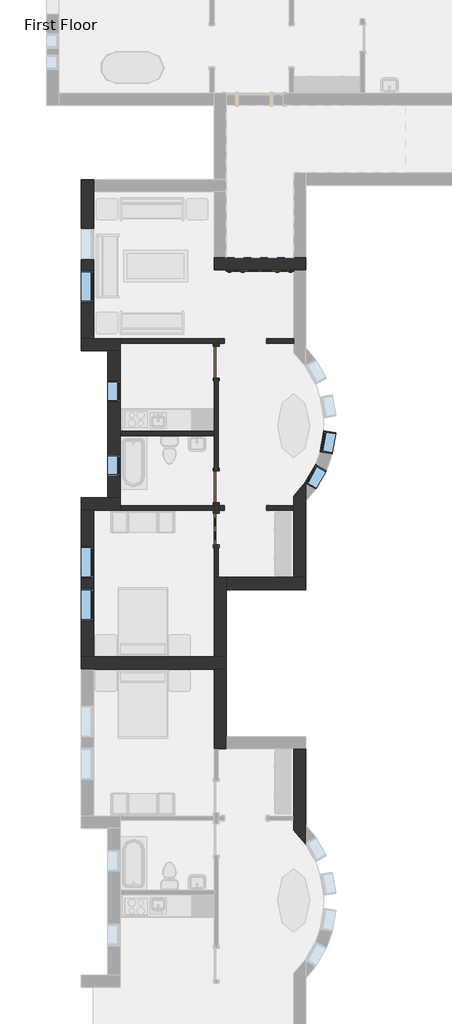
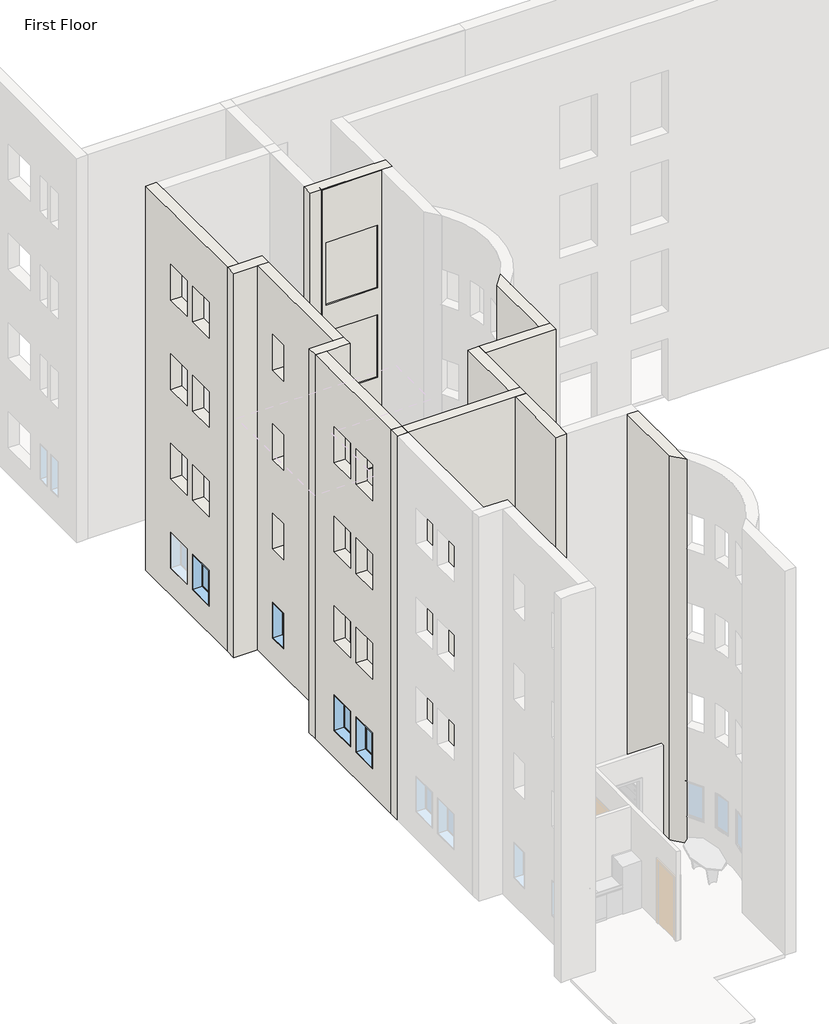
# One storey, part 8 of 21: 20 walls, 7 windows, 4 doors.
"""IFC4 building model written with IfcOpenShell, lengths in millimetres."""

from ifc_helpers import new_model, si_unit, frame, origin, origin_with_axes, place, context, project, spatial, polyline, circle_curve, outline, extrude, faceted_brep, transform, mapped, element, save
from ifc_brep_helpers import plane_surface, revolved_surface, advanced_brep
from components import door_2e3b4da2, door_a1797ceb, door_a3eb833a, door_dba5aa2e, window_60baf983, window_15c49d37

model = new_model("IFC4")

# Units and contexts
model_context = context("Model", 3, world=origin())
ifc_project = project(units=[si_unit("LENGTHUNIT", "METRE", prefix="MILLI")], contexts=[model_context])

# Site, building, storey
site = spatial("IfcSite", under=ifc_project)
building = spatial("IfcBuilding", under=site)
storey = spatial("IfcBuildingStorey", under=building, Name="First Floor", Elevation=0.0)

# Doors
placement = place(None, origin())
door_shape = door_2e3b4da2(model_context)
element("IfcDoor", 1, ObjectType="Single-Decorative 2 : 36\" x 84\"", at=placement, inside=storey, context=model_context, shape_type="MappedRepresentation", body=[
    mapped(door_shape, transform((-26223.8839563, -7995.7558133, 0.0), x_axis=(0.0, 1.0, 0.0), y_axis=(-1.0, 0.0, 0.0), z_axis=(0.0, 0.0, 1.0))),
])
door_2_shape = door_a1797ceb(model_context)
element("IfcDoor", 2, ObjectType="Single-Flush : 36\" x 84\"", at=placement, inside=storey, context=model_context, shape_type="MappedRepresentation", body=[
    mapped(door_2_shape, transform((-26223.8839563, -3198.3308133, 0.0), x_axis=(0.0, 1.0, 0.0), y_axis=(-1.0, 0.0, 0.0), z_axis=(0.0, 0.0, 1.0))),
])
door_3_shape = door_a3eb833a(model_context)
element("IfcDoor", 3, ObjectType="Single-Flush : 36\" x 84\"", at=placement, inside=storey, context=model_context, shape_type="MappedRepresentation", body=[
    mapped(door_3_shape, transform((-26223.8839563, -6776.5558133, 0.0), x_axis=(0.0, -1.0, 0.0), y_axis=(1.0, 0.0, 0.0), z_axis=(0.0, 0.0, 1.0))),
])
door_4_shape = door_dba5aa2e(model_context)
element("IfcDoor", 4, ObjectType="Single-Raised Panel with Sidelights : 36\" x 84\"", at=placement, inside=storey, context=model_context, shape_type="MappedRepresentation", body=[
    mapped(door_4_shape, transform((-24968.1714563, -415.4433133, 0.0), x_axis=(1.0, 0.0, 0.0), y_axis=(0.0, 1.0, 0.0), z_axis=(0.0, 0.0, 1.0))),
])

# Walls
element("IfcWall", 5, ObjectType="Exterior - Brick on Mtl. Stud", at=placement, inside=storey, context=model_context, shape_type="Brep", body=[
    faceted_brep([(-26287.3839563, -550.3808133, 0.0), (-24001.3839563, -550.3808133, 0.0), (-23648.9589563, -550.3808133, 0.0), (-23648.9589563, -550.3808133, 13106.4), (-24001.3839563, -550.3808133, 13106.4), (-26287.3839563, -550.3808133, 13106.4), (-26287.3839563, -197.9558133, 0.0), (-26287.3839563, -197.9558133, 13106.4), (-25934.9589563, -197.9558133, 13106.4), (-24001.3839563, -197.9558133, 13106.4), (-23648.9589563, -197.9558133, 13106.4), (-23648.9589563, -197.9558133, 0.0), (-24001.3839563, -197.9558133, 0.0), (-25934.9589563, -197.9558133, 0.0)], [[[0, 1, 2, 3, 4, 5]], [[6, 7, 8, 9, 10, 11, 12, 13]], [[2, 1, 0, 6, 13, 12, 11]], [[5, 4, 3, 10, 9, 8, 7]], [[3, 2, 11, 10]], [[0, 5, 7, 6]]]),
])
element("IfcWall", 6, ObjectType="Exterior - Brick on Mtl. Stud", at=placement, inside=storey, context=model_context, shape_type="Brep", body=[
    faceted_brep([(-24129.9714563, -591.6558133, 2133.6), (-24129.9714563, -591.6558133, 0.0), (-24001.3839563, -591.6558133, 0.0), (-24001.3839563, -591.6558133, 13106.4), (-25934.9589563, -591.6558133, 13106.4), (-25934.9589563, -591.6558133, 0.0), (-25806.3714563, -591.6558133, 0.0), (-25806.3714563, -591.6558133, 2133.6), (-25806.3714563, -591.6558133, 9144.0), (-25806.3714563, -591.6558133, 11277.6), (-24129.9714563, -591.6558133, 11277.6), (-24129.9714563, -591.6558133, 9144.0), (-25806.3714563, -591.6558133, 3048.0), (-25806.3714563, -591.6558133, 5181.6), (-24129.9714563, -591.6558133, 5181.6), (-24129.9714563, -591.6558133, 3048.0), (-25806.3714563, -591.6558133, 6096.0), (-25806.3714563, -591.6558133, 8229.6), (-24129.9714563, -591.6558133, 8229.6), (-24129.9714563, -591.6558133, 6096.0), (-24001.3839563, -239.2308133, 0.0), (-24129.9714563, -239.2308133, 0.0), (-24129.9714563, -239.2308133, 2133.6), (-25806.3714563, -239.2308133, 2133.6), (-25806.3714563, -239.2308133, 0.0), (-25934.9589563, -239.2308133, 0.0), (-25934.9589563, -239.2308133, 13106.4), (-24001.3839563, -239.2308133, 13106.4), (-25806.3714563, -239.2308133, 9144.0), (-24129.9714563, -239.2308133, 9144.0), (-24129.9714563, -239.2308133, 11277.6), (-25806.3714563, -239.2308133, 11277.6), (-25806.3714563, -239.2308133, 3048.0), (-24129.9714563, -239.2308133, 3048.0), (-24129.9714563, -239.2308133, 5181.6), (-25806.3714563, -239.2308133, 5181.6), (-25806.3714563, -239.2308133, 6096.0), (-24129.9714563, -239.2308133, 6096.0), (-24129.9714563, -239.2308133, 8229.6), (-25806.3714563, -239.2308133, 8229.6), (-24001.3839563, -550.3808133, 0.0), (-24001.3839563, -550.3808133, 13106.4)], [[[0, 1, 2, 3, 4, 5, 6, 7], [8, 9, 10, 11], [12, 13, 14, 15], [16, 17, 18, 19]], [[20, 21, 22, 23, 24, 25, 26, 27], [28, 29, 30, 31], [32, 33, 34, 35], [36, 37, 38, 39]], [[2, 1, 21, 20, 40]], [[6, 5, 25, 24]], [[4, 3, 41, 27, 26]], [[3, 2, 40, 20, 27, 41]], [[5, 4, 26, 25]], [[22, 21, 1, 0]], [[23, 22, 0, 7]], [[24, 23, 7, 6]], [[29, 28, 8, 11]], [[30, 29, 11, 10]], [[31, 30, 10, 9]], [[28, 31, 9, 8]], [[33, 32, 12, 15]], [[34, 33, 15, 14]], [[35, 34, 14, 13]], [[32, 35, 13, 12]], [[37, 36, 16, 19]], [[38, 37, 19, 18]], [[39, 38, 18, 17]], [[36, 39, 17, 16]]]),
])
element("IfcWall", 7, ObjectType="Exterior - Brick on Mtl. Stud", at=placement, inside=storey, context=model_context, shape_type="Brep", body=[
    faceted_brep([(-30097.3839563, -12021.6558133, 0.0), (-29744.9589563, -12021.6558133, 0.0), (-26287.3839563, -12021.6558133, 0.0), (-25934.9589563, -12021.6558133, 0.0), (-25934.9589563, -12021.6558133, 13106.4), (-26287.3839563, -12021.6558133, 13106.4), (-29744.9589563, -12021.6558133, 13106.4), (-30097.3839563, -12021.6558133, 13106.4), (-30097.3839563, -11669.2308133, 0.0), (-30097.3839563, -11669.2308133, 13106.4), (-29744.9589563, -11669.2308133, 13106.4), (-26287.3839563, -11669.2308133, 13106.4), (-25934.9589563, -11669.2308133, 13106.4), (-25934.9589563, -11669.2308133, 0.0), (-26287.3839563, -11669.2308133, 0.0), (-29744.9589563, -11669.2308133, 0.0)], [[[0, 1, 2, 3, 4, 5, 6, 7]], [[8, 9, 10, 11, 12, 13, 14, 15]], [[3, 2, 1, 0, 8, 15, 14, 13]], [[7, 6, 5, 4, 12, 11, 10, 9]], [[4, 3, 13, 12]], [[0, 7, 9, 8]]]),
])
element("IfcWall", 8, ObjectType="Exterior - Brick on Mtl. Stud", at=placement, inside=storey, context=model_context, shape_type="Brep", body=[
    faceted_brep([(-25934.9589563, -11669.2308133, 0.0), (-25934.9589563, -9735.6558133, 0.0), (-25934.9589563, -9383.2308133, 0.0), (-25934.9589563, -9383.2308133, 13106.4), (-25934.9589563, -9735.6558133, 13106.4), (-25934.9589563, -11669.2308133, 13106.4), (-26287.3839563, -11669.2308133, 0.0), (-26287.3839563, -11669.2308133, 13106.4), (-26287.3839563, -9383.2308133, 13106.4), (-26287.3839563, -9383.2308133, 3048.0), (-26287.3839563, -9383.2308133, 0.0), (-26160.3839563, -9383.2308133, 0.0)], [[[0, 1, 2, 3, 4, 5]], [[6, 7, 8, 9, 10]], [[2, 1, 0, 6, 10, 11]], [[5, 4, 3, 8, 7]], [[2, 11, 10, 9, 8, 3]], [[0, 5, 7, 6]]]),
])
element("IfcWall", 9, ObjectType="Exterior - Brick on Mtl. Stud", at=placement, inside=storey, context=model_context, shape_type="Brep", body=[
    faceted_brep([(-25934.9589563, -9735.6558133, 0.0), (-23648.9589563, -9735.6558133, 0.0), (-23648.9589563, -9735.6558133, 13106.4), (-25934.9589563, -9735.6558133, 13106.4), (-25934.9589563, -9383.2308133, 0.0), (-25934.9589563, -9383.2308133, 13106.4), (-24001.3839563, -9383.2308133, 13106.4), (-23648.9589563, -9383.2308133, 13106.4), (-23648.9589563, -9383.2308133, 0.0), (-24001.3839563, -9383.2308133, 0.0)], [[[0, 1, 2, 3]], [[4, 5, 6, 7, 8, 9]], [[1, 0, 4, 9, 8]], [[3, 2, 7, 6, 5]], [[2, 1, 8, 7]], [[0, 3, 5, 4]]]),
])
element("IfcWall", 10, ObjectType="Exterior - Brick on Mtl. Stud", at=placement, inside=storey, context=model_context, shape_type="AdvancedBrep", body=[
    advanced_brep(
    [(-23648.9589563, -9383.2308133, 0.0), (-23648.9589563, -7191.8285473, 0.0), (-23648.9589563, -6633.9339631, 0.0), (-23648.9589563, -6633.9339631, 914.4), (-23648.9589563, -6683.222211, 914.4), (-23648.9589563, -6683.222211, 2133.6), (-23648.9589563, -6633.9339631, 2133.6), (-23648.9589563, -6633.9339631, 3962.4), (-23648.9589563, -6683.222211, 3962.4), (-23648.9589563, -6683.222211, 5181.6), (-23648.9589563, -6633.9339631, 5181.6), (-23648.9589563, -6633.9339631, 7010.4), (-23648.9589563, -6683.222211, 7010.4), (-23648.9589563, -6683.222211, 8229.6), (-23648.9589563, -6633.9339631, 8229.6), (-23648.9589563, -6633.9339631, 10058.4), (-23648.9589563, -6683.222211, 10058.4), (-23648.9589563, -6683.222211, 11277.6), (-23648.9589563, -6633.9339631, 11277.6), (-23648.9589563, -6633.9339631, 13106.4), (-23648.9589563, -7191.8285473, 13106.4), (-23648.9589563, -9383.2308133, 13106.4), (-24001.3839563, -7047.827661, 0.0), (-24001.3839563, -7322.6558133, 0.0), (-24001.3839563, -7449.6558133, 0.0), (-24001.3839563, -9383.2308133, 0.0), (-24001.3839563, -9383.2308133, 13106.4), (-24001.3839563, -7047.827661, 13106.4), (-23654.515008, -6641.8454649, 11277.6), (-23654.515008, -6641.8454649, 10058.4), (-23654.515008, -6641.8454649, 8229.6), (-23654.515008, -6641.8454649, 7010.4), (-23654.515008, -6641.8454649, 5181.6), (-23654.515008, -6641.8454649, 3962.4), (-23654.515008, -6641.8454649, 2133.6), (-23654.515008, -6641.8454649, 914.4), (-23670.9721676, -6670.6414793, 2133.6), (-23670.9721676, -6670.6414793, 914.4), (-23670.9721676, -6670.6414793, 11277.6), (-23670.9721676, -6670.6414793, 10058.4), (-23670.9721676, -6670.6414793, 5181.6), (-23670.9721676, -6670.6414793, 3962.4), (-23670.9721676, -6670.6414793, 8229.6), (-23670.9721676, -6670.6414793, 7010.4)],
    [
        (0, 1),
        (1, 2),
        (2, 3),
        (3, 4),
        (4, 5),
        (5, 6),
        (6, 7),
        (7, 8),
        (8, 9),
        (9, 10),
        (10, 11),
        (11, 12),
        (12, 13),
        (13, 14),
        (14, 15),
        (15, 16),
        (16, 17),
        (17, 18),
        (18, 19),
        (19, 20),
        (20, 21),
        (21, 0),
        (22, 23),
        (23, 24),
        (24, 25),
        (25, 26),
        (26, 27),
        (27, 22),
        (0, 25),
        (22, 2, circle_curve(frame((-26001.8788413, -4987.4433133, 0.0), z_axis=(0.0, 0.0, 1.0), x_axis=(0.0, 1.0, 0.0)), 2871.7875)),
        (19, 27, circle_curve(frame((-26001.8788413, -4987.4433133, 13106.4), z_axis=(0.0, 0.0, -1.0), x_axis=(0.0, 1.0, 0.0)), 2871.7875)),
        (26, 21),
        (18, 28, circle_curve(frame((-26001.8788413, -4987.4433133, 11277.6), z_axis=(0.0, 0.0, -1.0), x_axis=(0.0, 1.0, 0.0)), 2871.7875)),
        (28, 29),
        (29, 15, circle_curve(frame((-26001.8788413, -4987.4433133, 10058.4), z_axis=(0.0, 0.0, 1.0), x_axis=(0.0, 1.0, 0.0)), 2871.7875)),
        (14, 30, circle_curve(frame((-26001.8788413, -4987.4433133, 8229.6), z_axis=(0.0, 0.0, -1.0), x_axis=(0.0, 1.0, 0.0)), 2871.7875)),
        (30, 31),
        (31, 11, circle_curve(frame((-26001.8788413, -4987.4433133, 7010.4), z_axis=(0.0, 0.0, 1.0), x_axis=(0.0, 1.0, 0.0)), 2871.7875)),
        (10, 32, circle_curve(frame((-26001.8788413, -4987.4433133, 5181.6), z_axis=(0.0, 0.0, -1.0), x_axis=(0.0, 1.0, 0.0)), 2871.7875)),
        (32, 33),
        (33, 7, circle_curve(frame((-26001.8788413, -4987.4433133, 3962.4), z_axis=(0.0, 0.0, 1.0), x_axis=(0.0, 1.0, 0.0)), 2871.7875)),
        (6, 34, circle_curve(frame((-26001.8788413, -4987.4433133, 2133.6), z_axis=(0.0, 0.0, -1.0), x_axis=(0.0, 1.0, 0.0)), 2871.7875)),
        (34, 35),
        (35, 3, circle_curve(frame((-26001.8788413, -4987.4433133, 914.4), z_axis=(0.0, 0.0, 1.0), x_axis=(0.0, 1.0, 0.0)), 2871.7875)),
        (36, 37),
        (37, 35),
        (34, 36),
        (37, 4),
        (36, 5),
        (38, 39),
        (39, 29),
        (28, 38),
        (39, 16),
        (38, 17),
        (40, 41),
        (41, 33),
        (32, 40),
        (41, 8),
        (40, 9),
        (42, 43),
        (43, 31),
        (30, 42),
        (43, 12),
        (42, 13),
    ],
    [
        plane_surface(frame((-23648.9589563, -9559.4433133, 0.0), z_axis=(1.0, 0.0, 0.0), x_axis=(0.0, 1.0, 0.0))),
        plane_surface(frame((-24001.3839563, -9559.4433133, 0.0), z_axis=(-1.0, 0.0, 0.0), x_axis=(0.0, -1.0, 0.0))),
        plane_surface(frame((-23648.9589563, -9559.4433133, 0.0), z_axis=(0.0, 0.0, -1.0), x_axis=(-1.0, 0.0, 0.0))),
        plane_surface(frame((-23648.9589563, -7121.0433133, 13106.4), z_axis=(0.0, 0.0, 1.0), x_axis=(-1.0, 0.0, 0.0))),
        revolved_surface(polyline([(-26001.8788413, -2115.6558133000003, 0.0), (-26001.8788413, -2115.6558133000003, 13106.4)]), (-26001.8788413, -4987.4433133, 0.0), (0.0, 0.0, -1.0)),
        plane_surface(frame((-26111.1714563, -9383.2308133, 0.0), z_axis=(0.0, -1.0, 0.0), x_axis=(-1.0, 0.0, 0.0))),
        plane_surface(frame((-23368.4940834, -6141.3786253, 2133.6), z_axis=(0.8682133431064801, -0.496191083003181, 0.0), x_axis=(0.0, 0.0, -1.0))),
        plane_surface(frame((-23368.4940834, -6141.3786253, 914.4), z_axis=(0.0, 0.0, 1.0000000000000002), x_axis=(0.8682133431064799, -0.4961910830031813, 0.0))),
        plane_surface(frame((-23670.9721676, -6670.6414793, 914.4), z_axis=(0.4961910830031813, 0.8682133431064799, 0.0), x_axis=(0.8682133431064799, -0.4961910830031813, 0.0))),
        plane_surface(frame((-23670.9721676, -6670.6414793, 2133.6), z_axis=(0.0, 0.0, -1.0000000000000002), x_axis=(0.8682133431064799, -0.4961910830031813, 0.0))),
        plane_surface(frame((-23368.4940834, -6141.3786253, 11277.6), z_axis=(0.8682133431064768, -0.49619108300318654, 0.0), x_axis=(0.0, 0.0, -1.0))),
        plane_surface(frame((-23368.4940834, -6141.3786253, 10058.4), z_axis=(0.0, 0.0, 1.0), x_axis=(0.8682133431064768, -0.49619108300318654, 0.0))),
        plane_surface(frame((-23670.9721676, -6670.6414793, 10058.4), z_axis=(0.49619108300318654, 0.8682133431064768, 0.0), x_axis=(0.8682133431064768, -0.49619108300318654, 0.0))),
        plane_surface(frame((-23670.9721676, -6670.6414793, 11277.6), z_axis=(0.0, 0.0, -1.0), x_axis=(0.8682133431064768, -0.49619108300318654, 0.0))),
        plane_surface(frame((-23368.4940834, -6141.3786253, 5181.6), z_axis=(0.8682133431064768, -0.49619108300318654, 0.0), x_axis=(0.0, 0.0, -1.0))),
        plane_surface(frame((-23368.4940834, -6141.3786253, 3962.4), z_axis=(0.0, 0.0, 1.0), x_axis=(0.8682133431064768, -0.49619108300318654, 0.0))),
        plane_surface(frame((-23670.9721676, -6670.6414793, 3962.4), z_axis=(0.49619108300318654, 0.8682133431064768, 0.0), x_axis=(0.8682133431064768, -0.49619108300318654, 0.0))),
        plane_surface(frame((-23670.9721676, -6670.6414793, 5181.6), z_axis=(0.0, 0.0, -1.0), x_axis=(0.8682133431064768, -0.49619108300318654, 0.0))),
        plane_surface(frame((-23368.4940834, -6141.3786253, 8229.6), z_axis=(0.8682133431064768, -0.49619108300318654, 0.0), x_axis=(0.0, 0.0, -1.0))),
        plane_surface(frame((-23368.4940834, -6141.3786253, 7010.4), z_axis=(0.0, 0.0, 1.0), x_axis=(0.8682133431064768, -0.49619108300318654, 0.0))),
        plane_surface(frame((-23670.9721676, -6670.6414793, 7010.4), z_axis=(0.49619108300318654, 0.8682133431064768, 0.0), x_axis=(0.8682133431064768, -0.49619108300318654, 0.0))),
        plane_surface(frame((-23670.9721676, -6670.6414793, 8229.6), z_axis=(0.0, 0.0, -1.0), x_axis=(0.8682133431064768, -0.49619108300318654, 0.0))),
    ],
    [
        (0, [[1, 2, 3, 4, 5, 6, 7, 8, 9, 10, 11, 12, 13, 14, 15, 16, 17, 18, 19, 20, 21, 22]]),
        (1, [[23, 24, 25, 26, 27, 28]]),
        (2, [[-2, -1, 29, -25, -24, -23, 30]]),
        (3, [[-21, -20, 31, -27, 32]]),
        (4, [[-30, -28, -31, -19, 33, 34, 35, -15, 36, 37, 38, -11, 39, 40, 41, -7, 42, 43, 44, -3]]),
        (5, [[-22, -32, -26, -29]]),
        (6, [[45, 46, -43, 47]]),
        (7, [[48, -4, -44, -46]]),
        (8, [[-45, 49, -5, -48]]),
        (9, [[-49, -47, -42, -6]]),
        (10, [[50, 51, -34, 52]]),
        (11, [[53, -16, -35, -51]]),
        (12, [[-50, 54, -17, -53]]),
        (13, [[-54, -52, -33, -18]]),
        (14, [[55, 56, -40, 57]]),
        (15, [[58, -8, -41, -56]]),
        (16, [[-55, 59, -9, -58]]),
        (17, [[-59, -57, -39, -10]]),
        (18, [[60, 61, -37, 62]]),
        (19, [[63, -12, -38, -61]]),
        (20, [[-60, 64, -13, -63]]),
        (21, [[-64, -62, -36, -14]]),
    ],
),
])
element("IfcWall", 11, ObjectType="Exterior - Brick on Mtl. Stud", at=placement, inside=storey, context=model_context, shape_type="SweptSolid", body=[
    extrude(outline(polyline([(-11669.2308133, 0.0), (-11669.2308133, 13106.4), (-7449.6558133, 13106.4), (-7449.6558133, 0.0), (-11669.2308133, 0.0)]), holes=[polyline([(-9407.0433133, 8229.6), (-9407.0433133, 7010.4), (-8492.6433133, 7010.4), (-8492.6433133, 8229.6), (-9407.0433133, 8229.6)]), polyline([(-10626.2433133, 8229.6), (-10626.2433133, 7010.4), (-9711.8433133, 7010.4), (-9711.8433133, 8229.6), (-10626.2433133, 8229.6)]), polyline([(-9407.0433133, 5181.6), (-9407.0433133, 3962.4), (-8492.6433133, 3962.4), (-8492.6433133, 5181.6), (-9407.0433133, 5181.6)]), polyline([(-10626.2433133, 5181.6), (-10626.2433133, 3962.4), (-9711.8433133, 3962.4), (-9711.8433133, 5181.6), (-10626.2433133, 5181.6)]), polyline([(-9407.0433133, 11277.6), (-9407.0433133, 10058.4), (-8492.6433133, 10058.4), (-8492.6433133, 11277.6), (-9407.0433133, 11277.6)]), polyline([(-10626.2433133, 11277.6), (-10626.2433133, 10058.4), (-9711.8433133, 10058.4), (-9711.8433133, 11277.6), (-10626.2433133, 11277.6)]), polyline([(-9407.0433133, 2133.6), (-9407.0433133, 914.4), (-8492.6433133, 914.4), (-8492.6433133, 2133.6), (-9407.0433133, 2133.6)]), polyline([(-10626.2433133, 2133.6), (-10626.2433133, 914.4), (-9711.8433133, 914.4), (-9711.8433133, 2133.6), (-10626.2433133, 2133.6)])]), frame((-30097.3839563, 0.0, 0.0), z_axis=(1.0, 0.0, 0.0), x_axis=(0.0, 1.0, 0.0)), (0.0, 0.0, 1.0), 352.425),
])
element("IfcWall", 12, ObjectType="Exterior - Brick on Mtl. Stud", at=placement, inside=storey, context=model_context, shape_type="Brep", body=[
    faceted_brep([(-30097.3839563, -7449.6558133, 0.0), (-29744.9589563, -7449.6558133, 0.0), (-28982.9589563, -7449.6558133, 0.0), (-28982.9589563, -7449.6558133, 3048.0), (-28982.9589563, -7449.6558133, 13106.4), (-29744.9589563, -7449.6558133, 13106.4), (-30097.3839563, -7449.6558133, 13106.4), (-30097.3839563, -7097.2308133, 0.0), (-30097.3839563, -7097.2308133, 13106.4), (-29335.3839563, -7097.2308133, 13106.4), (-28982.9589563, -7097.2308133, 13106.4), (-28982.9589563, -7097.2308133, 0.0), (-29335.3839563, -7097.2308133, 0.0), (-28982.9589563, -7322.6558133, 0.0)], [[[0, 1, 2, 3, 4, 5, 6]], [[7, 8, 9, 10, 11, 12]], [[2, 1, 0, 7, 12, 11, 13]], [[6, 5, 4, 10, 9, 8]], [[0, 6, 8, 7]], [[2, 13, 11, 10, 4, 3]]]),
])
element("IfcWall", 13, ObjectType="Exterior - Brick on Mtl. Stud", at=placement, inside=storey, context=model_context, shape_type="Brep", body=[
    faceted_brep([(-28982.9589563, -7097.2308133, 0.0), (-28982.9589563, -5316.0558133, 0.0), (-28982.9589563, -5189.0558133, 0.0), (-28982.9589563, -2877.6558133, 0.0), (-28982.9589563, -2877.6558133, 13106.4), (-28982.9589563, -7097.2308133, 13106.4), (-28982.9589563, -6471.7558133, 8229.6), (-28982.9589563, -5862.1558133, 8229.6), (-28982.9589563, -5862.1558133, 7010.4), (-28982.9589563, -6471.7558133, 7010.4), (-28982.9589563, -4338.1558133, 8229.6), (-28982.9589563, -3728.5558133, 8229.6), (-28982.9589563, -3728.5558133, 7010.4), (-28982.9589563, -4338.1558133, 7010.4), (-28982.9589563, -6471.7558133, 5181.6), (-28982.9589563, -5862.1558133, 5181.6), (-28982.9589563, -5862.1558133, 3962.4), (-28982.9589563, -6471.7558133, 3962.4), (-28982.9589563, -4338.1558133, 5181.6), (-28982.9589563, -3728.5558133, 5181.6), (-28982.9589563, -3728.5558133, 3962.4), (-28982.9589563, -4338.1558133, 3962.4), (-28982.9589563, -6471.7558133, 11277.6), (-28982.9589563, -5862.1558133, 11277.6), (-28982.9589563, -5862.1558133, 10058.4), (-28982.9589563, -6471.7558133, 10058.4), (-28982.9589563, -4338.1558133, 11277.6), (-28982.9589563, -3728.5558133, 11277.6), (-28982.9589563, -3728.5558133, 10058.4), (-28982.9589563, -4338.1558133, 10058.4), (-28982.9589563, -6471.7558133, 2133.6), (-28982.9589563, -5862.1558133, 2133.6), (-28982.9589563, -5862.1558133, 914.4), (-28982.9589563, -6471.7558133, 914.4), (-28982.9589563, -4338.1558133, 2133.6), (-28982.9589563, -3728.5558133, 2133.6), (-28982.9589563, -3728.5558133, 914.4), (-28982.9589563, -4338.1558133, 914.4), (-29335.3839563, -7097.2308133, 0.0), (-29335.3839563, -7097.2308133, 13106.4), (-29335.3839563, -2877.6558133, 13106.4), (-29335.3839563, -2877.6558133, 0.0), (-29335.3839563, -6471.7558133, 8229.6), (-29335.3839563, -6471.7558133, 7010.4), (-29335.3839563, -5862.1558133, 7010.4), (-29335.3839563, -5862.1558133, 8229.6), (-29335.3839563, -4338.1558133, 8229.6), (-29335.3839563, -4338.1558133, 7010.4), (-29335.3839563, -3728.5558133, 7010.4), (-29335.3839563, -3728.5558133, 8229.6), (-29335.3839563, -6471.7558133, 5181.6), (-29335.3839563, -6471.7558133, 3962.4), (-29335.3839563, -5862.1558133, 3962.4), (-29335.3839563, -5862.1558133, 5181.6), (-29335.3839563, -4338.1558133, 5181.6), (-29335.3839563, -4338.1558133, 3962.4), (-29335.3839563, -3728.5558133, 3962.4), (-29335.3839563, -3728.5558133, 5181.6), (-29335.3839563, -6471.7558133, 11277.6), (-29335.3839563, -6471.7558133, 10058.4), (-29335.3839563, -5862.1558133, 10058.4), (-29335.3839563, -5862.1558133, 11277.6), (-29335.3839563, -4338.1558133, 11277.6), (-29335.3839563, -4338.1558133, 10058.4), (-29335.3839563, -3728.5558133, 10058.4), (-29335.3839563, -3728.5558133, 11277.6), (-29335.3839563, -6471.7558133, 2133.6), (-29335.3839563, -6471.7558133, 914.4), (-29335.3839563, -5862.1558133, 914.4), (-29335.3839563, -5862.1558133, 2133.6), (-29335.3839563, -4338.1558133, 2133.6), (-29335.3839563, -4338.1558133, 914.4), (-29335.3839563, -3728.5558133, 914.4), (-29335.3839563, -3728.5558133, 2133.6)], [[[0, 1, 2, 3, 4, 5], [6, 7, 8, 9], [10, 11, 12, 13], [14, 15, 16, 17], [18, 19, 20, 21], [22, 23, 24, 25], [26, 27, 28, 29], [30, 31, 32, 33], [34, 35, 36, 37]], [[38, 39, 40, 41], [42, 43, 44, 45], [46, 47, 48, 49], [50, 51, 52, 53], [54, 55, 56, 57], [58, 59, 60, 61], [62, 63, 64, 65], [66, 67, 68, 69], [70, 71, 72, 73]], [[3, 2, 1, 0, 38, 41]], [[5, 4, 40, 39]], [[0, 5, 39, 38]], [[4, 3, 41, 40]], [[43, 42, 6, 9]], [[44, 43, 9, 8]], [[45, 44, 8, 7]], [[42, 45, 7, 6]], [[47, 46, 10, 13]], [[48, 47, 13, 12]], [[49, 48, 12, 11]], [[46, 49, 11, 10]], [[51, 50, 14, 17]], [[52, 51, 17, 16]], [[53, 52, 16, 15]], [[50, 53, 15, 14]], [[55, 54, 18, 21]], [[56, 55, 21, 20]], [[57, 56, 20, 19]], [[54, 57, 19, 18]], [[59, 58, 22, 25]], [[60, 59, 25, 24]], [[61, 60, 24, 23]], [[58, 61, 23, 22]], [[63, 62, 26, 29]], [[64, 63, 29, 28]], [[65, 64, 28, 27]], [[62, 65, 27, 26]], [[67, 66, 30, 33]], [[68, 67, 33, 32]], [[69, 68, 32, 31]], [[66, 69, 31, 30]], [[71, 70, 34, 37]], [[72, 71, 37, 36]], [[73, 72, 36, 35]], [[70, 73, 35, 34]]]),
])
element("IfcWall", 14, ObjectType="Exterior - Brick on Mtl. Stud", at=placement, inside=storey, context=model_context, shape_type="Brep", body=[
    faceted_brep([(-28982.9589563, -2525.2308133, 13106.4), (-28982.9589563, -2525.2308133, 3048.0), (-28982.9589563, -2525.2308133, 0.0), (-29744.9589563, -2525.2308133, 0.0), (-30097.3839563, -2525.2308133, 0.0), (-30097.3839563, -2525.2308133, 13106.4), (-29744.9589563, -2525.2308133, 13106.4), (-28982.9589563, -2877.6558133, 0.0), (-28982.9589563, -2877.6558133, 13106.4), (-29335.3839563, -2877.6558133, 13106.4), (-30097.3839563, -2877.6558133, 13106.4), (-30097.3839563, -2877.6558133, 0.0), (-29335.3839563, -2877.6558133, 0.0), (-28982.9589563, -2652.2308133, 0.0)], [[[0, 1, 2, 3, 4, 5, 6]], [[7, 8, 9, 10, 11, 12]], [[4, 3, 2, 13, 7, 12, 11]], [[0, 6, 5, 10, 9, 8]], [[0, 8, 7, 13, 2, 1]], [[5, 4, 11, 10]]]),
])
element("IfcWall", 15, ObjectType="Exterior - Brick on Mtl. Stud", at=placement, inside=storey, context=model_context, shape_type="Brep", body=[
    faceted_brep([(-29744.9589563, -2525.2308133, 0.0), (-29744.9589563, 1694.3441867, 0.0), (-29744.9589563, 2046.7691867, 0.0), (-29744.9589563, 2046.7691867, 13106.4), (-29744.9589563, 1694.3441867, 13106.4), (-29744.9589563, -2525.2308133, 13106.4), (-29744.9589563, -1482.2433133, 8229.6), (-29744.9589563, -567.8433133, 8229.6), (-29744.9589563, -567.8433133, 7010.4), (-29744.9589563, -1482.2433133, 7010.4), (-29744.9589563, -263.0433133, 8229.6), (-29744.9589563, 651.3566867, 8229.6), (-29744.9589563, 651.3566867, 7010.4), (-29744.9589563, -263.0433133, 7010.4), (-29744.9589563, -1482.2433133, 5181.6), (-29744.9589563, -567.8433133, 5181.6), (-29744.9589563, -567.8433133, 3962.4), (-29744.9589563, -1482.2433133, 3962.4), (-29744.9589563, -263.0433133, 5181.6), (-29744.9589563, 651.3566867, 5181.6), (-29744.9589563, 651.3566867, 3962.4), (-29744.9589563, -263.0433133, 3962.4), (-29744.9589563, -1482.2433133, 11277.6), (-29744.9589563, -567.8433133, 11277.6), (-29744.9589563, -567.8433133, 10058.4), (-29744.9589563, -1482.2433133, 10058.4), (-29744.9589563, -263.0433133, 11277.6), (-29744.9589563, 651.3566867, 11277.6), (-29744.9589563, 651.3566867, 10058.4), (-29744.9589563, -263.0433133, 10058.4), (-29744.9589563, -1482.2433133, 2133.6), (-29744.9589563, -567.8433133, 2133.6), (-29744.9589563, -567.8433133, 914.4), (-29744.9589563, -1482.2433133, 914.4), (-29744.9589563, -263.0433133, 2133.6), (-29744.9589563, 651.3566867, 2133.6), (-29744.9589563, 651.3566867, 914.4), (-29744.9589563, -263.0433133, 914.4), (-30097.3839563, -2525.2308133, 0.0), (-30097.3839563, -2525.2308133, 13106.4), (-30097.3839563, 2046.7691867, 13106.4), (-30097.3839563, 2046.7691867, 0.0), (-30097.3839563, -1482.2433133, 8229.6), (-30097.3839563, -1482.2433133, 7010.4), (-30097.3839563, -567.8433133, 7010.4), (-30097.3839563, -567.8433133, 8229.6), (-30097.3839563, -263.0433133, 8229.6), (-30097.3839563, -263.0433133, 7010.4), (-30097.3839563, 651.3566867, 7010.4), (-30097.3839563, 651.3566867, 8229.6), (-30097.3839563, -1482.2433133, 5181.6), (-30097.3839563, -1482.2433133, 3962.4), (-30097.3839563, -567.8433133, 3962.4), (-30097.3839563, -567.8433133, 5181.6), (-30097.3839563, -263.0433133, 5181.6), (-30097.3839563, -263.0433133, 3962.4), (-30097.3839563, 651.3566867, 3962.4), (-30097.3839563, 651.3566867, 5181.6), (-30097.3839563, -1482.2433133, 11277.6), (-30097.3839563, -1482.2433133, 10058.4), (-30097.3839563, -567.8433133, 10058.4), (-30097.3839563, -567.8433133, 11277.6), (-30097.3839563, -263.0433133, 11277.6), (-30097.3839563, -263.0433133, 10058.4), (-30097.3839563, 651.3566867, 10058.4), (-30097.3839563, 651.3566867, 11277.6), (-30097.3839563, -1482.2433133, 2133.6), (-30097.3839563, -1482.2433133, 914.4), (-30097.3839563, -567.8433133, 914.4), (-30097.3839563, -567.8433133, 2133.6), (-30097.3839563, -263.0433133, 2133.6), (-30097.3839563, -263.0433133, 914.4), (-30097.3839563, 651.3566867, 914.4), (-30097.3839563, 651.3566867, 2133.6)], [[[0, 1, 2, 3, 4, 5], [6, 7, 8, 9], [10, 11, 12, 13], [14, 15, 16, 17], [18, 19, 20, 21], [22, 23, 24, 25], [26, 27, 28, 29], [30, 31, 32, 33], [34, 35, 36, 37]], [[38, 39, 40, 41], [42, 43, 44, 45], [46, 47, 48, 49], [50, 51, 52, 53], [54, 55, 56, 57], [58, 59, 60, 61], [62, 63, 64, 65], [66, 67, 68, 69], [70, 71, 72, 73]], [[2, 1, 0, 38, 41]], [[5, 4, 3, 40, 39]], [[3, 2, 41, 40]], [[0, 5, 39, 38]], [[43, 42, 6, 9]], [[44, 43, 9, 8]], [[45, 44, 8, 7]], [[42, 45, 7, 6]], [[47, 46, 10, 13]], [[48, 47, 13, 12]], [[49, 48, 12, 11]], [[46, 49, 11, 10]], [[51, 50, 14, 17]], [[52, 51, 17, 16]], [[53, 52, 16, 15]], [[50, 53, 15, 14]], [[55, 54, 18, 21]], [[56, 55, 21, 20]], [[57, 56, 20, 19]], [[54, 57, 19, 18]], [[59, 58, 22, 25]], [[60, 59, 25, 24]], [[61, 60, 24, 23]], [[58, 61, 23, 22]], [[63, 62, 26, 29]], [[64, 63, 29, 28]], [[65, 64, 28, 27]], [[62, 65, 27, 26]], [[67, 66, 30, 33]], [[68, 67, 33, 32]], [[69, 68, 32, 31]], [[66, 69, 31, 30]], [[71, 70, 34, 37]], [[72, 71, 37, 36]], [[73, 72, 36, 35]], [[70, 73, 35, 34]]]),
])
element("IfcWall", 16, ObjectType="Exterior - Brick on Mtl. Stud", at=placement, inside=storey, context=model_context, shape_type="SweptSolid", body=[
    extrude(outline(polyline([(-26287.3839563, -12021.6558133), (-29744.9589563, -12021.6558133), (-29744.9589563, -11669.2308133), (-26287.3839563, -11669.2308133), (-26287.3839563, -12021.6558133)])), origin_with_axes(), (0.0, 0.0, 1.0), 13106.4),
])
element("IfcWall", 17, ObjectType="Exterior - Brick on Mtl. Stud", at=placement, inside=storey, context=model_context, shape_type="Brep", body=[
    faceted_brep([(-26287.3839563, -12021.6558133, 0.0), (-26287.3839563, -14307.6558133, 0.0), (-26287.3839563, -14307.6558133, 3048.0), (-26287.3839563, -14307.6558133, 13106.4), (-26287.3839563, -12021.6558133, 13106.4), (-25934.9589563, -12021.6558133, 0.0), (-25934.9589563, -12021.6558133, 13106.4), (-25934.9589563, -13955.2308133, 13106.4), (-25934.9589563, -14307.6558133, 13106.4), (-25934.9589563, -14307.6558133, 0.0), (-25934.9589563, -13955.2308133, 0.0), (-26160.3839563, -14307.6558133, 0.0)], [[[0, 1, 2, 3, 4]], [[5, 6, 7, 8, 9, 10]], [[1, 0, 5, 10, 9, 11]], [[4, 3, 8, 7, 6]], [[1, 11, 9, 8, 3, 2]], [[0, 4, 6, 5]]]),
])
element("IfcWall", 18, ObjectType="Exterior - Brick on Mtl. Stud", at=placement, inside=storey, context=model_context, shape_type="AdvancedBrep", body=[
    advanced_brep(
    [(-24001.3839563, -14307.6558133, 0.0), (-24001.3839563, -16241.2308133, 0.0), (-24001.3839563, -16368.2308133, 0.0), (-24001.3839563, -16643.0589656, 0.0), (-24001.3839563, -16643.0589656, 13106.4), (-24001.3839563, -14307.6558133, 13106.4), (-23648.9589563, -17056.9526635, 0.0), (-23648.9589563, -16499.0580793, 0.0), (-23648.9589563, -14307.6558133, 0.0), (-23648.9589563, -14307.6558133, 13106.4), (-23648.9589563, -16499.0580793, 13106.4), (-23648.9589563, -17056.9526635, 13106.4), (-23648.9589563, -17056.9526635, 11277.6), (-23648.9589563, -17007.6644156, 11277.6), (-23648.9589563, -17007.6644156, 10058.4), (-23648.9589563, -17056.9526635, 10058.4), (-23648.9589563, -17056.9526635, 8229.6), (-23648.9589563, -17007.6644156, 8229.6), (-23648.9589563, -17007.6644156, 7010.4), (-23648.9589563, -17056.9526635, 7010.4), (-23648.9589563, -17056.9526635, 5181.6), (-23648.9589563, -17007.6644156, 5181.6), (-23648.9589563, -17007.6644156, 3962.4), (-23648.9589563, -17056.9526635, 3962.4), (-23648.9589563, -17056.9526635, 2133.6), (-23648.9589563, -17007.6644156, 2133.6), (-23648.9589563, -17007.6644156, 914.4), (-23648.9589563, -17056.9526635, 914.4), (-23654.428547, -17049.1638446, 914.4), (-23654.428547, -17049.1638446, 2133.6), (-23654.428547, -17049.1638446, 3962.4), (-23654.428547, -17049.1638446, 5181.6), (-23654.428547, -17049.1638446, 7010.4), (-23654.428547, -17049.1638446, 8229.6), (-23654.428547, -17049.1638446, 10058.4), (-23654.428547, -17049.1638446, 11277.6), (-23670.9598455, -17020.2381051, 914.4), (-23670.9598455, -17020.2381051, 2133.6), (-23670.9598455, -17020.2381051, 10058.4), (-23670.9598455, -17020.2381051, 11277.6), (-23670.9598455, -17020.2381051, 3962.4), (-23670.9598455, -17020.2381051, 5181.6), (-23670.9598455, -17020.2381051, 7010.4), (-23670.9598455, -17020.2381051, 8229.6)],
    [
        (0, 1),
        (1, 2),
        (2, 3),
        (3, 4),
        (4, 5),
        (5, 0),
        (6, 7),
        (7, 8),
        (8, 9),
        (9, 10),
        (10, 11),
        (11, 12),
        (12, 13),
        (13, 14),
        (14, 15),
        (15, 16),
        (16, 17),
        (17, 18),
        (18, 19),
        (19, 20),
        (20, 21),
        (21, 22),
        (22, 23),
        (23, 24),
        (24, 25),
        (25, 26),
        (26, 27),
        (27, 6),
        (0, 8),
        (6, 3, circle_curve(frame((-26001.8788413, -18703.4433133, 0.0), z_axis=(0.0, 0.0, 1.0), x_axis=(0.0, -1.0, 0.0)), 2871.7875)),
        (4, 11, circle_curve(frame((-26001.8788413, -18703.4433133, 13106.4), z_axis=(0.0, 0.0, -1.0), x_axis=(0.0, -1.0, 0.0)), 2871.7875)),
        (9, 5),
        (27, 28, circle_curve(frame((-26001.8788413, -18703.4433133, 914.4), z_axis=(0.0, 0.0, 1.0), x_axis=(0.0, -1.0, 0.0)), 2871.7875)),
        (28, 29),
        (29, 24, circle_curve(frame((-26001.8788413, -18703.4433133, 2133.6), z_axis=(0.0, 0.0, -1.0), x_axis=(0.0, -1.0, 0.0)), 2871.7875)),
        (23, 30, circle_curve(frame((-26001.8788413, -18703.4433133, 3962.4), z_axis=(0.0, 0.0, 1.0), x_axis=(0.0, -1.0, 0.0)), 2871.7875)),
        (30, 31),
        (31, 20, circle_curve(frame((-26001.8788413, -18703.4433133, 5181.6), z_axis=(0.0, 0.0, -1.0), x_axis=(0.0, -1.0, 0.0)), 2871.7875)),
        (19, 32, circle_curve(frame((-26001.8788413, -18703.4433133, 7010.4), z_axis=(0.0, 0.0, 1.0), x_axis=(0.0, -1.0, 0.0)), 2871.7875)),
        (32, 33),
        (33, 16, circle_curve(frame((-26001.8788413, -18703.4433133, 8229.6), z_axis=(0.0, 0.0, -1.0), x_axis=(0.0, -1.0, 0.0)), 2871.7875)),
        (15, 34, circle_curve(frame((-26001.8788413, -18703.4433133, 10058.4), z_axis=(0.0, 0.0, 1.0), x_axis=(0.0, -1.0, 0.0)), 2871.7875)),
        (34, 35),
        (35, 12, circle_curve(frame((-26001.8788413, -18703.4433133, 11277.6), z_axis=(0.0, 0.0, -1.0), x_axis=(0.0, -1.0, 0.0)), 2871.7875)),
        (36, 37),
        (37, 29),
        (28, 36),
        (26, 36),
        (25, 37),
        (38, 39),
        (39, 35),
        (34, 38),
        (14, 38),
        (13, 39),
        (40, 41),
        (41, 31),
        (30, 40),
        (22, 40),
        (21, 41),
        (42, 43),
        (43, 33),
        (32, 42),
        (18, 42),
        (17, 43),
    ],
    [
        plane_surface(frame((-24001.3839563, -14131.4433133, 0.0), z_axis=(-1.0, 0.0, 0.0), x_axis=(0.0, -1.0, 0.0))),
        plane_surface(frame((-23648.9589563, -14131.4433133, 0.0), z_axis=(1.0, 0.0, 0.0), x_axis=(0.0, 1.0, 0.0))),
        plane_surface(frame((-24001.3839563, -14131.4433133, 0.0), z_axis=(0.0, 0.0, -1.0), x_axis=(1.0, 0.0, 0.0))),
        plane_surface(frame((-24001.3839563, -16569.8433133, 13106.4), z_axis=(0.0, 0.0, 1.0), x_axis=(1.0, 0.0, 0.0))),
        revolved_surface(polyline([(-26001.8788413, -21575.230813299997, 0.0), (-26001.8788413, -21575.230813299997, 13106.4)]), (-26001.8788413, -18703.4433133, 0.0), (0.0, 0.0, -1.0)),
        plane_surface(frame((-26111.1714563, -14307.6558133, 0.0), z_axis=(0.0, 1.0, 0.0), x_axis=(1.0, 0.0, 0.0))),
        plane_surface(frame((-23368.4817613, -17549.5009591, 2133.6), z_axis=(0.8682133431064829, 0.4961910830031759, 0.0), x_axis=(0.0, 0.0, 1.0))),
        plane_surface(frame((-23063.8719855, -17375.4139611, 914.4), z_axis=(0.0, 0.0, 1.0), x_axis=(-0.8682133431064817, -0.496191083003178, 0.0))),
        plane_surface(frame((-23366.3500697, -16846.1511071, 914.4), z_axis=(0.496191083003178, -0.8682133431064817, 0.0), x_axis=(-0.8682133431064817, -0.496191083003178, 0.0))),
        plane_surface(frame((-23366.3500697, -16846.1511071, 2133.6), z_axis=(0.0, 0.0, -1.0), x_axis=(-0.8682133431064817, -0.496191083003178, 0.0))),
        plane_surface(frame((-23368.4817613, -17549.5009591, 11277.6), z_axis=(0.8682133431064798, 0.49619108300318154, 0.0), x_axis=(0.0, 0.0, 1.0))),
        plane_surface(frame((-23063.8719855, -17375.4139611, 10058.4), z_axis=(0.0, 0.0, 1.0), x_axis=(-0.8682133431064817, -0.496191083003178, 0.0))),
        plane_surface(frame((-23366.3500697, -16846.1511071, 10058.4), z_axis=(0.4961910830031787, -0.8682133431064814, 0.0), x_axis=(-0.8682133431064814, -0.4961910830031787, 0.0))),
        plane_surface(frame((-23366.3500697, -16846.1511071, 11277.6), z_axis=(0.0, 0.0, -1.0), x_axis=(-0.8682133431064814, -0.4961910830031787, 0.0))),
        plane_surface(frame((-23368.4817613, -17549.5009591, 5181.6), z_axis=(0.8682133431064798, 0.49619108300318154, 0.0), x_axis=(0.0, 0.0, 1.0))),
        plane_surface(frame((-23063.8719855, -17375.4139611, 3962.4), z_axis=(0.0, 0.0, 1.0), x_axis=(-0.8682133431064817, -0.496191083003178, 0.0))),
        plane_surface(frame((-23366.3500697, -16846.1511071, 3962.4), z_axis=(0.4961910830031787, -0.8682133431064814, 0.0), x_axis=(-0.8682133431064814, -0.4961910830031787, 0.0))),
        plane_surface(frame((-23366.3500697, -16846.1511071, 5181.6), z_axis=(0.0, 0.0, -1.0), x_axis=(-0.8682133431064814, -0.4961910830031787, 0.0))),
        plane_surface(frame((-23368.4817613, -17549.5009591, 8229.6), z_axis=(0.8682133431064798, 0.49619108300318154, 0.0), x_axis=(0.0, 0.0, 1.0))),
        plane_surface(frame((-23063.8719855, -17375.4139611, 7010.4), z_axis=(0.0, 0.0, 1.0), x_axis=(-0.8682133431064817, -0.496191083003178, 0.0))),
        plane_surface(frame((-23366.3500697, -16846.1511071, 7010.4), z_axis=(0.4961910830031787, -0.8682133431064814, 0.0), x_axis=(-0.8682133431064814, -0.4961910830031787, 0.0))),
        plane_surface(frame((-23366.3500697, -16846.1511071, 8229.6), z_axis=(0.0, 0.0, -1.0), x_axis=(-0.8682133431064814, -0.4961910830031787, 0.0))),
    ],
    [
        (0, [[1, 2, 3, 4, 5, 6]]),
        (1, [[7, 8, 9, 10, 11, 12, 13, 14, 15, 16, 17, 18, 19, 20, 21, 22, 23, 24, 25, 26, 27, 28]]),
        (2, [[-3, -2, -1, 29, -8, -7, 30]]),
        (3, [[-5, 31, -11, -10, 32]]),
        (4, [[-30, -28, 33, 34, 35, -24, 36, 37, 38, -20, 39, 40, 41, -16, 42, 43, 44, -12, -31, -4]]),
        (5, [[-6, -32, -9, -29]]),
        (6, [[45, 46, -34, 47]]),
        (7, [[48, -47, -33, -27]]),
        (8, [[-45, -48, -26, 49]]),
        (9, [[-49, -25, -35, -46]]),
        (10, [[50, 51, -43, 52]]),
        (11, [[53, -52, -42, -15]]),
        (12, [[-50, -53, -14, 54]]),
        (13, [[-54, -13, -44, -51]]),
        (14, [[55, 56, -37, 57]]),
        (15, [[58, -57, -36, -23]]),
        (16, [[-55, -58, -22, 59]]),
        (17, [[-59, -21, -38, -56]]),
        (18, [[60, 61, -40, 62]]),
        (19, [[63, -62, -39, -19]]),
        (20, [[-60, -63, -18, 64]]),
        (21, [[-64, -17, -41, -61]]),
    ],
),
])
element("IfcWall", 19, ObjectType="Interior - 5\" Partition (2-hr)", at=placement, inside=storey, context=model_context, shape_type="Brep", body=[
    faceted_brep([(-28982.9589563, -2652.2308133, 0.0), (-26287.3839563, -2652.2308133, 0.0), (-26160.3839563, -2652.2308133, 0.0), (-26160.3839563, -2652.2308133, 3048.0), (-26287.3839563, -2652.2308133, 3048.0), (-28982.9589563, -2652.2308133, 3048.0), (-28982.9589563, -2525.2308133, 0.0), (-28982.9589563, -2525.2308133, 3048.0), (-26160.3839563, -2525.2308133, 3048.0), (-26160.3839563, -2525.2308133, 0.0)], [[[0, 1, 2, 3, 4, 5]], [[6, 7, 8, 9]], [[2, 1, 0, 6, 9]], [[5, 4, 3, 8, 7]], [[3, 2, 9, 8]], [[0, 5, 7, 6]]]),
])
element("IfcWall", 20, ObjectType="Interior - 5\" Partition (2-hr)", at=placement, inside=storey, context=model_context, shape_type="Brep", body=[
    faceted_brep([(-26160.3839563, -7538.5558133, 2133.6), (-26160.3839563, -7538.5558133, 0.0), (-26160.3839563, -7449.6558133, 0.0), (-26160.3839563, -7322.6558133, 0.0), (-26160.3839563, -7233.7558133, 0.0), (-26160.3839563, -7233.7558133, 2133.6), (-26160.3839563, -6319.3558133, 2133.6), (-26160.3839563, -6319.3558133, 0.0), (-26160.3839563, -3655.5308133, 0.0), (-26160.3839563, -3655.5308133, 2133.6), (-26160.3839563, -2741.1308133, 2133.6), (-26160.3839563, -2741.1308133, 0.0), (-26160.3839563, -2652.2308133, 0.0), (-26160.3839563, -2652.2308133, 3048.0), (-26160.3839563, -7322.6558133, 3048.0), (-26160.3839563, -7449.6558133, 3048.0), (-26160.3839563, -9383.2308133, 3048.0), (-26160.3839563, -9383.2308133, 0.0), (-26160.3839563, -8452.9558133, 0.0), (-26160.3839563, -8452.9558133, 2133.6), (-26287.3839563, -7233.7558133, 0.0), (-26287.3839563, -7322.6558133, 0.0), (-26287.3839563, -7449.6558133, 0.0), (-26287.3839563, -7538.5558133, 0.0), (-26287.3839563, -7538.5558133, 2133.6), (-26287.3839563, -8452.9558133, 2133.6), (-26287.3839563, -8452.9558133, 0.0), (-26287.3839563, -9383.2308133, 0.0), (-26287.3839563, -9383.2308133, 3048.0), (-26287.3839563, -7449.6558133, 3048.0), (-26287.3839563, -7322.6558133, 3048.0), (-26287.3839563, -5316.0558133, 3048.0), (-26287.3839563, -5189.0558133, 3048.0), (-26287.3839563, -2652.2308133, 3048.0), (-26287.3839563, -2652.2308133, 0.0), (-26287.3839563, -2741.1308133, 0.0), (-26287.3839563, -2741.1308133, 2133.6), (-26287.3839563, -3655.5308133, 2133.6), (-26287.3839563, -3655.5308133, 0.0), (-26287.3839563, -5189.0558133, 0.0), (-26287.3839563, -5316.0558133, 0.0), (-26287.3839563, -6319.3558133, 0.0), (-26287.3839563, -6319.3558133, 2133.6), (-26287.3839563, -7233.7558133, 2133.6)], [[[0, 1, 2, 3, 4, 5, 6, 7, 8, 9, 10, 11, 12, 13, 14, 15, 16, 17, 18, 19]], [[20, 21, 22, 23, 24, 25, 26, 27, 28, 29, 30, 31, 32, 33, 34, 35, 36, 37, 38, 39, 40, 41, 42, 43]], [[12, 11, 35, 34]], [[4, 3, 2, 1, 23, 22, 21, 20]], [[41, 40, 39, 38, 8, 7]], [[18, 17, 27, 26]], [[16, 15, 14, 13, 33, 32, 31, 30, 29, 28]], [[17, 16, 28, 27]], [[13, 12, 34, 33]], [[36, 35, 11, 10]], [[37, 36, 10, 9]], [[38, 37, 9, 8]], [[5, 4, 20, 43]], [[6, 5, 43, 42]], [[7, 6, 42, 41]], [[24, 23, 1, 0]], [[25, 24, 0, 19]], [[26, 25, 19, 18]]]),
])
element("IfcWall", 21, ObjectType="Interior - 5\" Partition (2-hr)", at=placement, inside=storey, context=model_context, shape_type="SweptSolid", body=[
    extrude(outline(polyline([(-26287.3839563, -7449.6558133), (-28982.9589563, -7449.6558133), (-28982.9589563, -7322.6558133), (-26287.3839563, -7322.6558133), (-26287.3839563, -7449.6558133)])), origin_with_axes(), (0.0, 0.0, 1.0), 3048.0),
])
element("IfcWall", 22, ObjectType="Interior - 5\" Partition (2-hr)", at=placement, inside=storey, context=model_context, shape_type="SweptSolid", body=[
    extrude(outline(polyline([(-28982.9589563, -5189.0558133), (-26287.3839563, -5189.0558133), (-26287.3839563, -5316.0558133), (-28982.9589563, -5316.0558133), (-28982.9589563, -5189.0558133)])), origin_with_axes(), (0.0, 0.0, 1.0), 3048.0),
])
element("IfcWall", 23, ObjectType="Interior - 5\" Partition (2-hr)", at=placement, inside=storey, context=model_context, shape_type="SweptSolid", body=[
    extrude(outline(polyline([(2133.6, -24776.0839563), (0.0, -24776.0839563), (0.0, -24001.3839563), (3048.0, -24001.3839563), (3048.0, -26160.3839563), (0.0, -26160.3839563), (0.0, -25995.2839563), (2133.6, -25995.2839563), (2133.6, -24776.0839563)])), frame((0.0, -7449.6558133, 0.0), z_axis=(0.0, 1.0, 0.0), x_axis=(0.0, 0.0, 1.0)), (0.0, 0.0, 1.0), 127.0),
])
element("IfcWall", 24, ObjectType="Interior - 5\" Partition (2-hr)", at=placement, inside=storey, context=model_context, shape_type="SweptSolid", body=[
    extrude(outline(polyline([(0.0, -26160.3839563), (0.0, -25995.2839563), (2133.6, -25995.2839563), (2133.6, -24776.0839563), (0.0, -24776.0839563), (0.0, -24001.3839563), (3048.0, -24001.3839563), (3048.0, -26160.3839563), (0.0, -26160.3839563)])), frame((0.0, -2652.2308133, 0.0), z_axis=(0.0, 1.0, 0.0), x_axis=(0.0, 0.0, 1.0)), (0.0, 0.0, 1.0), 127.0),
])

# Windows
window_shape = window_60baf983(model_context)
element("IfcWindow", 25, ObjectType="Fixed : 24\" x 48\"", at=placement, inside=storey, context=model_context, shape_type="MappedRepresentation", body=[
    mapped(window_shape, transform((-29159.1714563, -4071.4558133, 0.0), x_axis=(0.0, -1.0, 0.0), y_axis=(1.0, 0.0, 0.0), z_axis=(0.0, 0.0, 1.0))),
])
element("IfcWindow", 26, ObjectType="Fixed : 24\" x 48\"", at=placement, inside=storey, context=model_context, shape_type="MappedRepresentation", body=[
    mapped(window_shape, transform((-29159.1714563, -6205.0558133, 0.0), x_axis=(0.0, -1.0, 0.0), y_axis=(1.0, 0.0, 0.0), z_axis=(0.0, 0.0, 1.0))),
])
element("IfcWindow", 27, ObjectType="Fixed : 24\" x 48\"", at=placement, inside=storey, context=model_context, shape_type="MappedRepresentation", body=[
    mapped(window_shape, transform((-23350.7429238, -6458.7061225, 0.0), x_axis=(0.49619108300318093, 0.86821334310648, 0.0), y_axis=(-0.86821334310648, 0.49619108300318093, 0.0), z_axis=(0.0, 0.0, 1.0))),
])
element("IfcWindow", 28, ObjectType="Fixed : 24\" x 48\"", at=placement, inside=storey, context=model_context, shape_type="MappedRepresentation", body=[
    mapped(window_shape, transform((-23007.6234621, -5464.4869495, 0.0), x_axis=(0.1697322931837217, 0.9854902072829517, 0.0), y_axis=(-0.9854902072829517, 0.1697322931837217, 0.0), z_axis=(0.0, 0.0, 1.0))),
])
window_2_shape = window_15c49d37(model_context)
element("IfcWindow", 29, ObjectType="Fixed : 36\" x 48\"", at=placement, inside=storey, context=model_context, shape_type="MappedRepresentation", body=[
    mapped(window_2_shape, transform((-29921.1714563, -10207.1433133, 0.0), x_axis=(0.0, -1.0, 0.0), y_axis=(1.0, 0.0, 0.0), z_axis=(0.0, 0.0, 1.0))),
])
element("IfcWindow", 30, ObjectType="Fixed : 36\" x 48\"", at=placement, inside=storey, context=model_context, shape_type="MappedRepresentation", body=[
    mapped(window_2_shape, transform((-29921.1714563, -8987.9433133, 0.0), x_axis=(0.0, -1.0, 0.0), y_axis=(1.0, 0.0, 0.0), z_axis=(0.0, 0.0, 1.0))),
])
element("IfcWindow", 31, ObjectType="Fixed : 36\" x 48\"", at=placement, inside=storey, context=model_context, shape_type="MappedRepresentation", body=[
    mapped(window_2_shape, transform((-29921.1714563, -1063.1433133, 0.0), x_axis=(0.0, -1.0, 0.0), y_axis=(1.0, 0.0, 0.0), z_axis=(0.0, 0.0, 1.0))),
])

save(model, "model.ifc")
